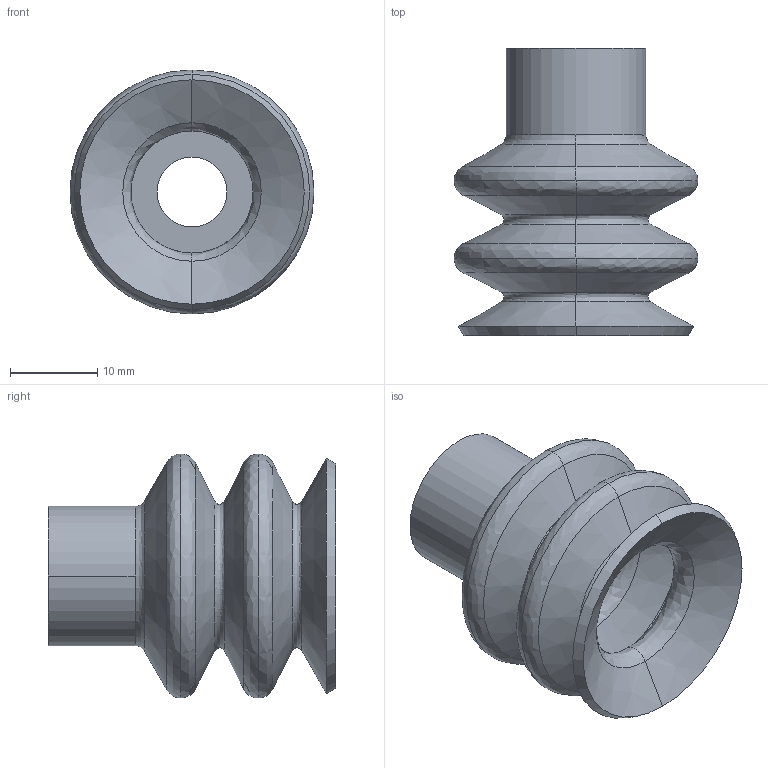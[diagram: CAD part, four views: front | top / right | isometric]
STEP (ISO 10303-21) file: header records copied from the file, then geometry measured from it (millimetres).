
FILE_DESCRIPTION (( 'STEP AP214' ), '1' );
FILE_NAME ('VS3-S26.STEP', '2019-11-13T08:46:35', ( '微软用户' ), ( '微软中国' ), 'SwSTEP 2.0', 'SolidWorks 2016', '' );
FILE_SCHEMA (( 'AUTOMOTIVE_DESIGN' ));
Length unit declared in the file: millimetre
Products named in the file (1): VS3-S26
Bounding box: 28 x 33 x 28 mm (x, y, z)
Volume: 5161.6 mm3; surface area: 6094.5 mm2
Topology: 1 solids, 1 shells, 54 faces, 112 edges, 60 vertices
Faces by surface type: bspline 26, cone 22, cylinder 4, plane 2
Entity records: 1728 total; most frequent: CARTESIAN_POINT 695, ORIENTED_EDGE 224, DIRECTION 204, EDGE_CURVE 112, AXIS2_PLACEMENT_3D 89, VERTEX_POINT 60, CIRCLE 60, EDGE_LOOP 56
